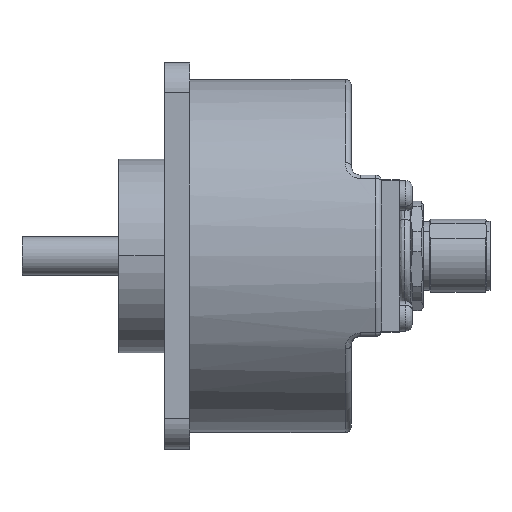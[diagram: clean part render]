
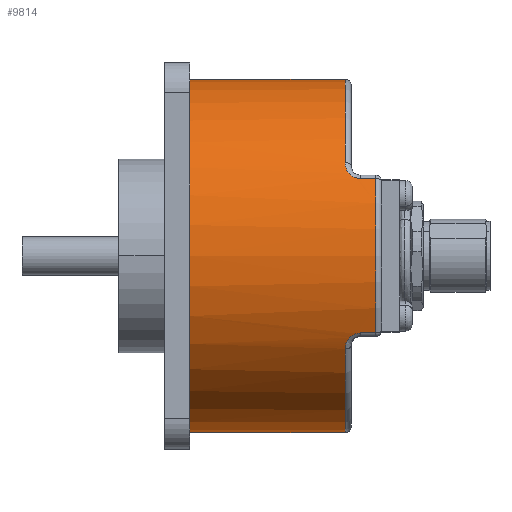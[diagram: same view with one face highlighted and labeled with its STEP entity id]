
A CAD part, top view. The second image highlights one B-rep face of the part: STEP entity #9814.
In plain terms, the highlighted cylindrical face has radius 29 mm (diameter 58 mm), a partial arc.
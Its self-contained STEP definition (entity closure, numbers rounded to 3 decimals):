
#11 = CARTESIAN_POINT ( 'NONE',  ( 38.568, 25.423, 0. ) ) ;
#39 = EDGE_CURVE ( 'NONE', #8126, #9394, #2181, .T. ) ;
#66 = CARTESIAN_POINT ( 'NONE',  ( 35.363, 38.209, 26.029 ) ) ;
#105 = DIRECTION ( 'NONE',  ( -1., 0., 0. ) ) ;
#121 = CARTESIAN_POINT ( 'NONE',  ( 35.71, 38.131, 26.068 ) ) ;
#165 = CARTESIAN_POINT ( 'NONE',  ( 33.779, 11.201, 25.274 ) ) ;
#345 = CARTESIAN_POINT ( 'NONE',  ( 33.568, 40.7, 24.65 ) ) ;
#448 = AXIS2_PLACEMENT_3D ( 'NONE', #4372, #3658, #2705 ) ;
#569 = B_SPLINE_CURVE_WITH_KNOTS ( 'NONE', 3,
 ( #7960, #9629, #121, #66, #5358, #6273, #2609, #6978, #10713, #8785, #4494, #990, #1794, #8139, #5477, #8832 ),
 .UNSPECIFIED., .F., .F.,
 ( 4, 2, 2, 2, 2, 2, 2, 4 ),
 ( 0., 0.001, 0.001, 0.002, 0.002, 0.003, 0.003, 0.004 ),
 .UNSPECIFIED. ) ;
#922 = VERTEX_POINT ( 'NONE', #5913 ) ;
#928 = CARTESIAN_POINT ( 'NONE',  ( 34.722, 12.336, 25.879 ) ) ;
#934 = DIRECTION ( 'NONE',  ( 0., 1., 0. ) ) ;
#990 = CARTESIAN_POINT ( 'NONE',  ( 33.849, 39.496, 25.357 ) ) ;
#1091 = CARTESIAN_POINT ( 'NONE',  ( 34.869, 12.426, 25.924 ) ) ;
#1161 = AXIS2_PLACEMENT_3D ( 'NONE', #7106, #2779, #1967 ) ;
#1448 = VERTEX_POINT ( 'NONE', #345 ) ;
#1781 = ORIENTED_EDGE ( 'NONE', *, *, #7379, .T. ) ;
#1787 = CARTESIAN_POINT ( 'NONE',  ( 33.568, 10.454, 24.84 ) ) ;
#1794 = CARTESIAN_POINT ( 'NONE',  ( 33.782, 39.64, 25.277 ) ) ;
#1836 = CARTESIAN_POINT ( 'NONE',  ( 33.568, 10.146, 24.65 ) ) ;
#1889 = CARTESIAN_POINT ( 'NONE',  ( 33.568, 25.423, 0. ) ) ;
#1951 = CARTESIAN_POINT ( 'NONE',  ( 34.011, 11.627, 25.509 ) ) ;
#1967 = DIRECTION ( 'NONE',  ( 0., -1., 0. ) ) ;
#1981 = VERTEX_POINT ( 'NONE', #4233 ) ;
#2008 = CARTESIAN_POINT ( 'NONE',  ( 35.358, 12.636, 26.029 ) ) ;
#2160 = EDGE_CURVE ( 'NONE', #10561, #7136, #3625, .T. ) ;
#2181 = LINE ( 'NONE', #3841, #7862 ) ;
#2609 = CARTESIAN_POINT ( 'NONE',  ( 34.727, 38.507, 25.881 ) ) ;
#2618 = DIRECTION ( 'NONE',  ( -1., 0., 0. ) ) ;
#2705 = DIRECTION ( 'NONE',  ( 0., 1., 0. ) ) ;
#2779 = DIRECTION ( 'NONE',  ( -1., 0., 0. ) ) ;
#2819 = CARTESIAN_POINT ( 'NONE',  ( 33.619, 10.756, 25.02 ) ) ;
#2931 = CARTESIAN_POINT ( 'NONE',  ( 33.568, 54.423, 0. ) ) ;
#3121 = ORIENTED_EDGE ( 'NONE', *, *, #2160, .T. ) ;
#3358 = CARTESIAN_POINT ( 'NONE',  ( 36.068, 38.111, 26.077 ) ) ;
#3406 = ORIENTED_EDGE ( 'NONE', *, *, #4394, .F. ) ;
#3625 = LINE ( 'NONE', #6071, #10904 ) ;
#3658 = DIRECTION ( 'NONE',  ( 1., 0., 0. ) ) ;
#3666 = CARTESIAN_POINT ( 'NONE',  ( 34.324, 12.01, 25.712 ) ) ;
#3742 = AXIS2_PLACEMENT_3D ( 'NONE', #4482, #105, #5339 ) ;
#3841 = CARTESIAN_POINT ( 'NONE',  ( 34.568, 12.736, 26.077 ) ) ;
#4033 = VERTEX_POINT ( 'NONE', #2931 ) ;
#4075 = CARTESIAN_POINT ( 'NONE',  ( 34.568, -3.577, 0. ) ) ;
#4233 = CARTESIAN_POINT ( 'NONE',  ( 8.068, 54.423, 0. ) ) ;
#4372 = CARTESIAN_POINT ( 'NONE',  ( 8.068, 25.423, 0. ) ) ;
#4375 = ORIENTED_EDGE ( 'NONE', *, *, #10196, .T. ) ;
#4394 = EDGE_CURVE ( 'NONE', #4429, #922, #10172, .T. ) ;
#4429 = VERTEX_POINT ( 'NONE', #7599 ) ;
#4433 = CARTESIAN_POINT ( 'NONE',  ( 35.886, 12.736, 26.077 ) ) ;
#4482 = CARTESIAN_POINT ( 'NONE',  ( 33.568, 25.423, 0. ) ) ;
#4494 = CARTESIAN_POINT ( 'NONE',  ( 34.013, 39.217, 25.51 ) ) ;
#5266 = CYLINDRICAL_SURFACE ( 'NONE', #1161, 29. ) ;
#5292 = ORIENTED_EDGE ( 'NONE', *, *, #11032, .T. ) ;
#5339 = DIRECTION ( 'NONE',  ( 0., 1., 0. ) ) ;
#5341 = DIRECTION ( 'NONE',  ( -1., 0., 0. ) ) ;
#5345 = EDGE_LOOP ( 'NONE', ( #5292, #10386, #10310, #3406, #8245, #1781, #10961, #4375, #3121, #5779 ) ) ;
#5358 = CARTESIAN_POINT ( 'NONE',  ( 35.192, 38.268, 26. ) ) ;
#5399 = CIRCLE ( 'NONE', #448, 29. ) ;
#5471 = CARTESIAN_POINT ( 'NONE',  ( 34.106, 11.76, 25.58 ) ) ;
#5477 = CARTESIAN_POINT ( 'NONE',  ( 33.568, 40.393, 24.84 ) ) ;
#5520 = CARTESIAN_POINT ( 'NONE',  ( 36.068, 12.736, 26.077 ) ) ;
#5737 = VECTOR ( 'NONE', #7982, 1000. ) ;
#5779 = ORIENTED_EDGE ( 'NONE', *, *, #10163, .T. ) ;
#5913 = CARTESIAN_POINT ( 'NONE',  ( 8.068, -3.577, 0. ) ) ;
#6071 = CARTESIAN_POINT ( 'NONE',  ( 34.568, 38.111, 26.077 ) ) ;
#6162 = CARTESIAN_POINT ( 'NONE',  ( 33.568, 10.146, 24.65 ) ) ;
#6273 = CARTESIAN_POINT ( 'NONE',  ( 34.876, 38.417, 25.926 ) ) ;
#6978 = CARTESIAN_POINT ( 'NONE',  ( 34.453, 38.716, 25.774 ) ) ;
#7050 = FACE_OUTER_BOUND ( 'NONE', #5345, .T. ) ;
#7106 = CARTESIAN_POINT ( 'NONE',  ( 34.568, 25.423, 0. ) ) ;
#7136 = VERTEX_POINT ( 'NONE', #3358 ) ;
#7147 = DIRECTION ( 'NONE',  ( -1., 0., 0. ) ) ;
#7171 = LINE ( 'NONE', #9020, #5737 ) ;
#7199 = CARTESIAN_POINT ( 'NONE',  ( 35.705, 12.715, 26.067 ) ) ;
#7379 = EDGE_CURVE ( 'NONE', #9138, #8126, #9654, .T. ) ;
#7599 = CARTESIAN_POINT ( 'NONE',  ( 33.568, -3.577, 0. ) ) ;
#7862 = VECTOR ( 'NONE', #8238, 1000. ) ;
#7960 = CARTESIAN_POINT ( 'NONE',  ( 36.068, 38.111, 26.077 ) ) ;
#7982 = DIRECTION ( 'NONE',  ( -1., 0., 0. ) ) ;
#8043 = CARTESIAN_POINT ( 'NONE',  ( 38.568, 12.736, 26.077 ) ) ;
#8126 = VERTEX_POINT ( 'NONE', #9931 ) ;
#8139 = CARTESIAN_POINT ( 'NONE',  ( 33.619, 40.088, 25.021 ) ) ;
#8176 = CIRCLE ( 'NONE', #3742, 29. ) ;
#8238 = DIRECTION ( 'NONE',  ( 1., 0., 0. ) ) ;
#8245 = ORIENTED_EDGE ( 'NONE', *, *, #10625, .T. ) ;
#8435 = VECTOR ( 'NONE', #9152, 1000. ) ;
#8525 = EDGE_CURVE ( 'NONE', #4033, #1981, #7171, .T. ) ;
#8785 = CARTESIAN_POINT ( 'NONE',  ( 34.11, 39.081, 25.583 ) ) ;
#8832 = CARTESIAN_POINT ( 'NONE',  ( 33.568, 40.7, 24.65 ) ) ;
#8893 = AXIS2_PLACEMENT_3D ( 'NONE', #11, #7147, #934 ) ;
#8994 = CARTESIAN_POINT ( 'NONE',  ( 34.45, 12.128, 25.773 ) ) ;
#9020 = CARTESIAN_POINT ( 'NONE',  ( 34.568, 54.423, 0. ) ) ;
#9138 = VERTEX_POINT ( 'NONE', #1836 ) ;
#9152 = DIRECTION ( 'NONE',  ( -1., 0., 0. ) ) ;
#9394 = VERTEX_POINT ( 'NONE', #8043 ) ;
#9475 = AXIS2_PLACEMENT_3D ( 'NONE', #1889, #5341, #9773 ) ;
#9483 = CIRCLE ( 'NONE', #9475, 29. ) ;
#9629 = CARTESIAN_POINT ( 'NONE',  ( 35.887, 38.111, 26.077 ) ) ;
#9654 = B_SPLINE_CURVE_WITH_KNOTS ( 'NONE', 3,
 ( #6162, #1787, #2819, #165, #9836, #1951, #5471, #3666, #8994, #928, #1091, #9891, #2008, #7199, #4433, #5520 ),
 .UNSPECIFIED., .F., .F.,
 ( 4, 2, 2, 2, 2, 2, 2, 4 ),
 ( 0., 0.001, 0.002, 0.002, 0.003, 0.003, 0.004, 0.004 ),
 .UNSPECIFIED. ) ;
#9773 = DIRECTION ( 'NONE',  ( 0., 1., 0. ) ) ;
#9814 = ADVANCED_FACE ( 'NONE', ( #7050 ), #5266, .T. ) ;
#9836 = CARTESIAN_POINT ( 'NONE',  ( 33.848, 11.348, 25.356 ) ) ;
#9891 = CARTESIAN_POINT ( 'NONE',  ( 35.187, 12.576, 25.999 ) ) ;
#9931 = CARTESIAN_POINT ( 'NONE',  ( 36.068, 12.736, 26.077 ) ) ;
#10163 = EDGE_CURVE ( 'NONE', #7136, #1448, #569, .T. ) ;
#10172 = LINE ( 'NONE', #4075, #8435 ) ;
#10196 = EDGE_CURVE ( 'NONE', #9394, #10561, #10912, .T. ) ;
#10310 = ORIENTED_EDGE ( 'NONE', *, *, #10989, .T. ) ;
#10386 = ORIENTED_EDGE ( 'NONE', *, *, #8525, .T. ) ;
#10417 = CARTESIAN_POINT ( 'NONE',  ( 38.568, 38.111, 26.077 ) ) ;
#10561 = VERTEX_POINT ( 'NONE', #10417 ) ;
#10625 = EDGE_CURVE ( 'NONE', #4429, #9138, #8176, .T. ) ;
#10713 = CARTESIAN_POINT ( 'NONE',  ( 34.33, 38.831, 25.715 ) ) ;
#10904 = VECTOR ( 'NONE', #2618, 1000. ) ;
#10912 = CIRCLE ( 'NONE', #8893, 29. ) ;
#10961 = ORIENTED_EDGE ( 'NONE', *, *, #39, .T. ) ;
#10989 = EDGE_CURVE ( 'NONE', #1981, #922, #5399, .T. ) ;
#11032 = EDGE_CURVE ( 'NONE', #1448, #4033, #9483, .T. ) ;
